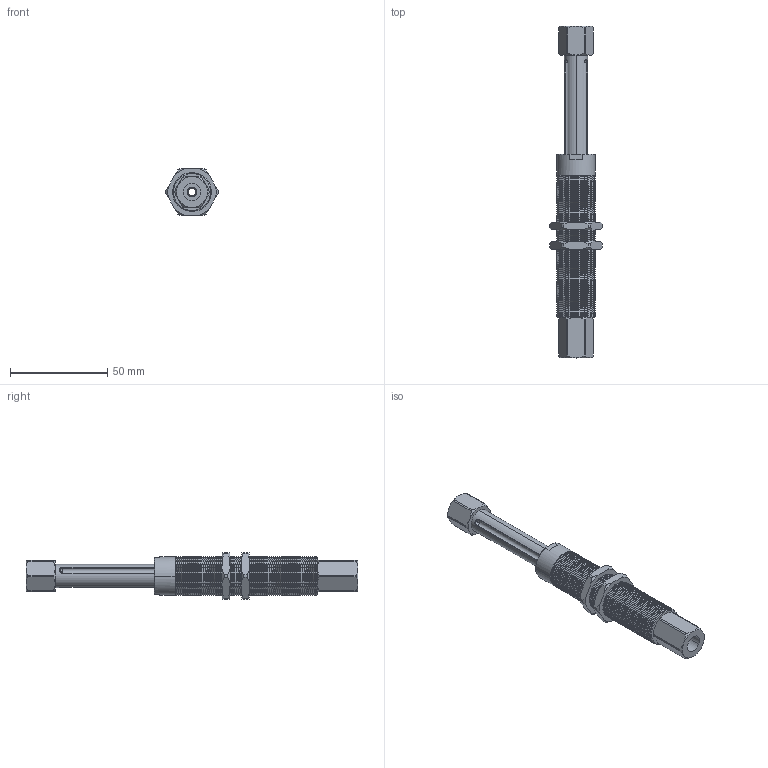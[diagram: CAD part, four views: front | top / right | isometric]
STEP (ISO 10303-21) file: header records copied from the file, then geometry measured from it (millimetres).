
FILE_DESCRIPTION (( 'STEP AP214' ), '1' );
FILE_NAME ('VFNT2051-G18.STEP', '2019-11-18T05:17:01', ( '微软用户' ), ( '微软中国' ), 'SwSTEP 2.0', 'SolidWorks 2016', '' );
FILE_SCHEMA (( 'AUTOMOTIVE_DESIGN' ));
Length unit declared in the file: millimetre
Products named in the file (1): VFNT2051-G18
Bounding box: 27 x 171 x 24 mm (x, y, z)
Volume: 34279.9 mm3; surface area: 25540.8 mm2
Topology: 6 solids, 6 shells, 730 faces, 1571 edges, 867 vertices
Faces by surface type: cone 387, cylinder 260, plane 59, sphere 12, bspline 12
Entity records: 32881 total; most frequent: CARTESIAN_POINT 9073, DIRECTION 3509, ORIENTED_EDGE 3142, EDGE_CURVE 1571, AXIS2_PLACEMENT_3D 1422, VERTEX_POINT 867, EDGE_LOOP 762, UNCERTAINTY_MEASURE_WITH_UNIT 738
